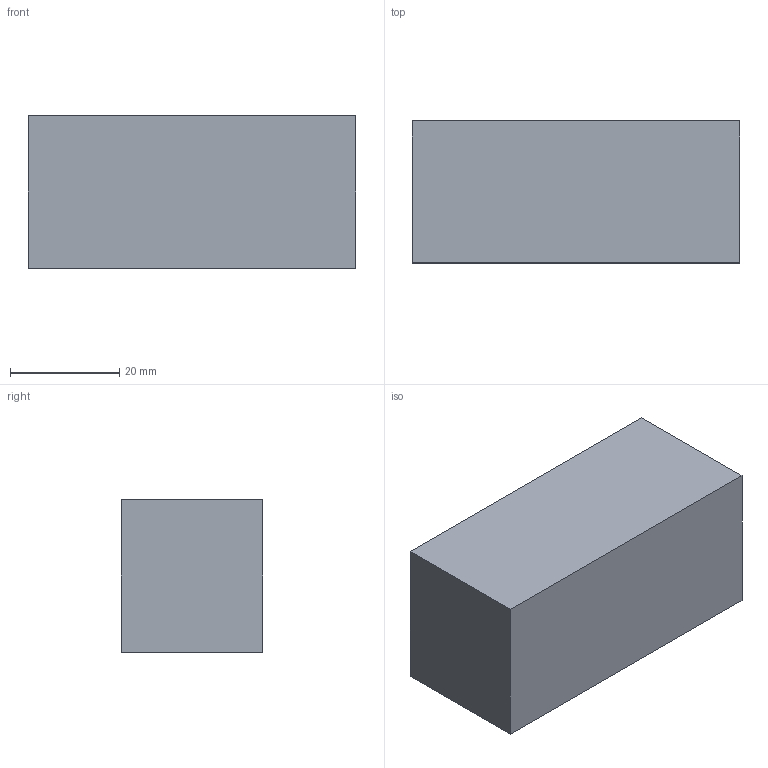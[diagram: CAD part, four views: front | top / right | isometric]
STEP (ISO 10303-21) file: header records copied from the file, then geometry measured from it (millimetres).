
FILE_DESCRIPTION(('Open CASCADE Model'),'2;1');
FILE_NAME('Open CASCADE Shape Model','2026-10-04T02:31:38',('Author'),( 'Open CASCADE'),'Open CASCADE STEP processor 8.0','Open CASCADE 8.0' ,'Unknown');
FILE_SCHEMA(('AUTOMOTIVE_DESIGN { 1 0 10303 214 1 1 1 1 }'));
Length unit declared in the file: millimetre
Products named in the file (1): Open CASCADE STEP translator 8.0 129
Bounding box: 60 x 26 x 28 mm (x, y, z)
Volume: 43680 mm3; surface area: 7936 mm2
Topology: 1 solids, 1 shells, 6 faces, 12 edges, 8 vertices
Faces by surface type: plane 6
Entity records: 322 total; most frequent: CARTESIAN_POINT 51, DIRECTION 50, LINE 36, VECTOR 36, ORIENTED_EDGE 24, PCURVE 24, DEFINITIONAL_REPRESENTATION 24, EDGE_CURVE 12
